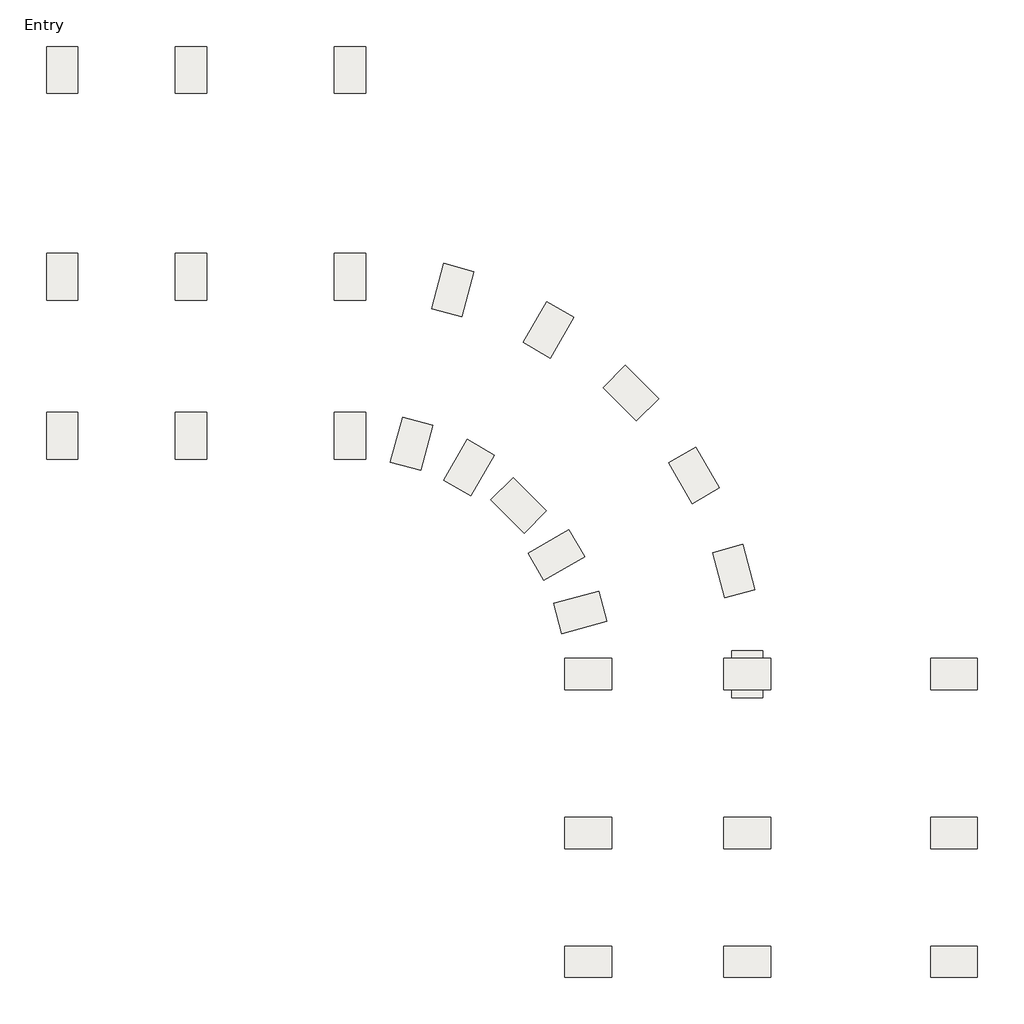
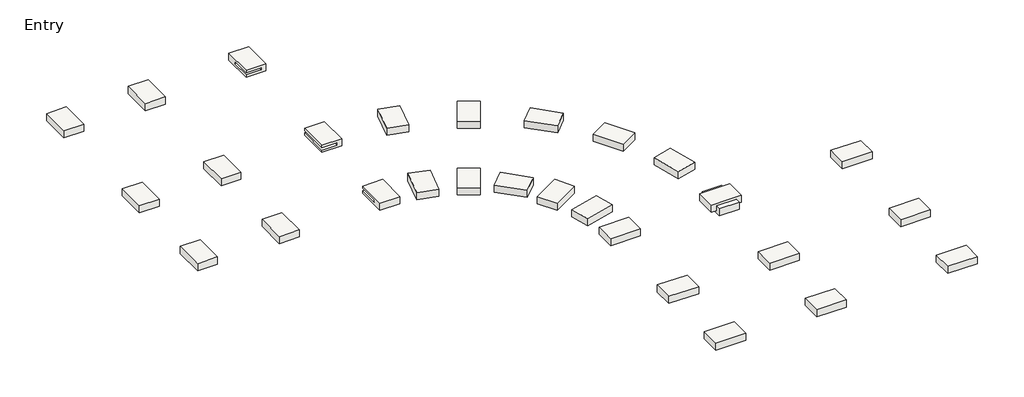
# One storey: 29 slabs.
"""IFC4 building model written with IfcOpenShell, lengths in millimetres."""

import ifcopenshell
import ifcopenshell.guid

model = None  # the IFC model being written
_history = None  # IfcOwnerHistory: only IFC2X3 demands one
_inside = {}  # id of a spatial element -> (the spatial element, [elements in it])
_under = {}  # id of a project, library or spatial element -> (it, [spatial elements below it])
_declared = {}  # id of a project -> (the project, [libraries it declares])
_typed = {}  # id of a type object -> (the type object, [elements of that type])
_made_of = {}  # id of a material, layer set ... -> (it, [elements and type objects made of it])


def new_model(schema):
    """Start an empty IFC model of exactly this schema.

    Asked for "IFC4X3", IfcOpenShell would pick the latest addendum, in which some entities
    have other attributes; the version numbers below select the first issue.
    IFC2X3 requires an IfcOwnerHistory on every rooted entity: one is made here for all.
    """
    global model, _history
    if schema == "IFC4X3":
        model = ifcopenshell.file(schema_version=(4, 3, 0, 0))
    else:
        model = ifcopenshell.file(schema=schema)
    _inside.clear()
    _under.clear()
    _declared.clear()
    _typed.clear()
    _made_of.clear()
    _history = None
    if model.schema == "IFC2X3":
        org = make("IfcOrganization", Name="unknown")
        user = make(
            "IfcPersonAndOrganization",
            ThePerson=make("IfcPerson", FamilyName="unknown"),
            TheOrganization=org,
        )
        app = make(
            "IfcApplication",
            ApplicationDeveloper=org,
            Version="unknown",
            ApplicationFullName="unknown",
            ApplicationIdentifier="unknown",
        )
        _history = make(
            "IfcOwnerHistory",
            OwningUser=user,
            OwningApplication=app,
            ChangeAction="ADDED",
            CreationDate=0,
        )
    return model


def make(cls, **values):
    """One entity of the class cls with the attributes given. An attribute that is None is left unset."""
    return model.create_entity(
        cls, **{name: value for name, value in values.items() if value is not None}
    )


def rooted(cls, **values):
    """An entity with a GlobalId (a new one), such as an element, a storey or a relation."""
    return make(cls, GlobalId=ifcopenshell.guid.new(), OwnerHistory=_history, **values)


def si_unit(unit_type, name, prefix=None):
    """IfcSIUnit, for example si_unit("LENGTHUNIT", "METRE", prefix="MILLI")."""
    return make("IfcSIUnit", UnitType=unit_type, Prefix=prefix, Name=name)


def assignment(units):
    """IfcUnitAssignment: the units of a project."""
    return None if units is None else make("IfcUnitAssignment", Units=units)


def point(xyz):
    """IfcCartesianPoint."""
    return None if xyz is None else make("IfcCartesianPoint", Coordinates=xyz)


def direction(xyz):
    """IfcDirection."""
    return None if xyz is None else make("IfcDirection", DirectionRatios=xyz)


def frame(location, z_axis=None, x_axis=None):
    """IfcAxis2Placement3D, a coordinate frame: its origin and axes. An axis left out is left unset."""
    return make(
        "IfcAxis2Placement3D",
        Location=point(location),
        Axis=direction(z_axis),
        RefDirection=direction(x_axis),
    )


def origin():
    """The frame at (0, 0, 0) with its axes left unset."""
    return frame((0.0, 0.0, 0.0))


def place(relative_to, where):
    """IfcLocalPlacement: puts the frame where relative to a parent placement (None: the world)."""
    return make(
        "IfcLocalPlacement", PlacementRelTo=relative_to, RelativePlacement=where
    )


def context(
    kind, dimensions, precision=None, world=None, true_north=None, identifier=None
):
    """IfcGeometricRepresentationContext, for example the 3D "Model" context."""
    return make(
        "IfcGeometricRepresentationContext",
        ContextIdentifier=identifier,
        ContextType=kind,
        CoordinateSpaceDimension=dimensions,
        Precision=precision,
        WorldCoordinateSystem=world,
        TrueNorth=true_north,
    )


def project(units=None, contexts=None):
    """IfcProject with its units and contexts."""
    return rooted(
        "IfcProject",
        Name="project",
        RepresentationContexts=contexts,
        UnitsInContext=assignment(units),
    )


def spatial(cls, under=None, at=None, **own):
    """A site, building, storey or space (cls), placed at a placement, below another one or the project."""
    s = rooted(cls, ObjectPlacement=at, **own)
    if under is not None:
        _under.setdefault(under.id(), (under, []))[1].append(s)
    return s


def polyline(points):
    """IfcPolyline through the points."""
    return make("IfcPolyline", Points=[point(p) for p in points])


def outline(outer, holes=None, kind="AREA"):
    """IfcArbitraryClosedProfileDef: a profile drawn as a closed curve; with holes, ...WithVoids."""
    if holes is None:
        return make("IfcArbitraryClosedProfileDef", ProfileType=kind, OuterCurve=outer)
    return make(
        "IfcArbitraryProfileDefWithVoids",
        ProfileType=kind,
        OuterCurve=outer,
        InnerCurves=holes,
    )


def extrude(swept, where, along, depth):
    """IfcExtrudedAreaSolid: the profile swept, set in the frame where, extruded along a direction by depth."""
    return make(
        "IfcExtrudedAreaSolid",
        SweptArea=swept,
        Position=where,
        ExtrudedDirection=direction(along),
        Depth=depth,
    )


def faces_of(points, faces, orient=None, outer=None):
    """IfcFace entities. A face is a list of loops; a loop is a list of indices into points, from 0.

    orient and outer hold one flag for each loop. By default every Orientation is true, the
    first loop of a face is its IfcFaceOuterBound and the others are IfcFaceBound.
    """
    made = []
    for i, loops in enumerate(faces):
        bounds = []
        for j, loop in enumerate(loops):
            is_outer = j == 0 if outer is None else outer[i][j]
            bounds.append(
                make(
                    "IfcFaceOuterBound" if is_outer else "IfcFaceBound",
                    Bound=make("IfcPolyLoop", Polygon=[points[k] for k in loop]),
                    Orientation=True if orient is None else orient[i][j],
                )
            )
        made.append(make("IfcFace", Bounds=bounds))
    return made


def faceted_brep(points, faces, orient=None, outer=None, voids=None):
    """IfcFacetedBrep: a solid bounded by flat faces; with voids (closed shells), ...WithVoids."""
    shared = [point(p) for p in points]
    hull = make("IfcClosedShell", CfsFaces=faces_of(shared, faces, orient, outer))
    if voids is None:
        return make("IfcFacetedBrep", Outer=hull)
    return make(
        "IfcFacetedBrepWithVoids",
        Outer=hull,
        Voids=[
            make(cls, CfsFaces=faces_of(shared, fs, o, b)) for cls, fs, o, b in voids
        ],
    )


def shape(context_of_items, identifier, shape_type, items):
    """IfcShapeRepresentation: the items that make up one representation, for example the "Body"."""
    return make(
        "IfcShapeRepresentation",
        ContextOfItems=context_of_items,
        RepresentationIdentifier=identifier,
        RepresentationType=shape_type,
        Items=items,
    )


def source(mapping_origin, context_of_items, identifier, shape_type, items):
    """IfcRepresentationMap: a shape defined once, which mapped items show again and again."""
    return make(
        "IfcRepresentationMap",
        MappingOrigin=mapping_origin,
        MappedRepresentation=shape(context_of_items, identifier, shape_type, items),
    )


def transform(
    local_origin,
    x_axis=None,
    y_axis=None,
    z_axis=None,
    scale=None,
    scale2=None,
    scale3=None,
    uniform=True,
):
    """IfcCartesianTransformationOperator3D, or its non-uniform kind. x_axis, y_axis, z_axis: its Axis1, 2, 3."""
    if uniform:
        return make(
            "IfcCartesianTransformationOperator3D",
            Axis1=direction(x_axis),
            Axis2=direction(y_axis),
            LocalOrigin=point(local_origin),
            Scale=scale,
            Axis3=direction(z_axis),
        )
    return make(
        "IfcCartesianTransformationOperator3DnonUniform",
        Axis1=direction(x_axis),
        Axis2=direction(y_axis),
        LocalOrigin=point(local_origin),
        Scale=scale,
        Axis3=direction(z_axis),
        Scale2=scale2,
        Scale3=scale3,
    )


def mapped(mapping_source, mapping_target):
    """IfcMappedItem: shows the shape of a source again, moved by a transform."""
    return make(
        "IfcMappedItem", MappingSource=mapping_source, MappingTarget=mapping_target
    )


def made_of(thing, what):
    """Note that an element or type object is made of a material, layer set ...; save() writes the relation."""
    if what is not None:
        _made_of.setdefault(what.id(), (what, []))[1].append(thing)
    return thing


def element(
    cls,
    number,
    at=None,
    inside=None,
    cuts=None,
    type_object=None,
    material=None,
    context=None,
    identifier="Body",
    shape_type=None,
    held_by="IfcProductDefinitionShape",
    body=None,
    shapes=None,
    **own,
):
    """One element of the class cls, such as IfcWall. Its Tag is "e" and its number.

    at: its placement. inside: the storey or other place that contains it. cuts: it is an
    opening in that element (IfcRelVoidsElement). A single representation is given by context,
    identifier, shape_type and body (its items); several are given by shapes. held_by: the class
    of the entity that holds the representations. save() writes the other relations.
    """
    e = rooted(cls, Tag="e%d" % number, ObjectPlacement=at, **own)
    if body is not None:
        shapes = [shape(context, identifier, shape_type, body)]
    if shapes is not None:
        e.Representation = make(held_by, Representations=shapes)
    if inside is not None:
        _inside.setdefault(inside.id(), (inside, []))[1].append(e)
    if cuts is not None:
        rooted(
            "IfcRelVoidsElement", RelatingBuildingElement=cuts, RelatedOpeningElement=e
        )
    if type_object is not None:
        _typed.setdefault(type_object.id(), (type_object, []))[1].append(e)
    return made_of(e, material)


def aggregate(whole, parts):
    """IfcRelAggregates: a whole, such as a stair, and the parts it consists of."""
    return rooted("IfcRelAggregates", RelatingObject=whole, RelatedObjects=parts)


def save(model, path):
    """Write the relations noted so far, then the file.

    IfcRelAggregates (storeys below a building ...), IfcRelContainedInSpatialStructure (elements
    in a storey), IfcRelDefinesByType, IfcRelAssociatesMaterial and IfcRelDeclares: one each for
    every whole, place, type object, material and project.
    """
    for whole, parts in _under.values():
        aggregate(whole, parts)
    for where, things in _inside.values():
        rooted(
            "IfcRelContainedInSpatialStructure",
            RelatedElements=things,
            RelatingStructure=where,
        )
    for kind, things in _typed.values():
        rooted("IfcRelDefinesByType", RelatedObjects=things, RelatingType=kind)
    for what, things in _made_of.values():
        rooted("IfcRelAssociatesMaterial", RelatedObjects=things, RelatingMaterial=what)
    for by, libraries in _declared.values():
        rooted("IfcRelDeclares", RelatingContext=by, RelatedDefinitions=libraries)
    model.write(path)


def m_footing_rectangular_1800_x_1200_x_450mm_16ba7ea5(model_context):
    return source(origin(), model_context, "Body", "SweptSolid", [
        extrude(outline(polyline([(600.0, 900.0), (600.0, -900.0), (-600.0, -900.0), (-600.0, 900.0), (600.0, 900.0)])), frame((0.0, 0.0, -450.0), z_axis=(0.0, 0.0, 1.0), x_axis=(1.0, 0.0, 0.0)), (0.0, 0.0, 1.0), 450.0),
    ])


def m_footing_rectangular_1800_x_1200_x_450mm_a17f5610(model_context):
    return source(origin(), model_context, "Body", "SweptSolid", [
        extrude(outline(polyline([(600.0, -900.0), (-600.0, -900.0), (-600.0, 900.0), (600.0, 900.0), (600.0, -900.0)])), frame((0.0, 0.0, -450.0), z_axis=(0.0, 0.0, 1.0), x_axis=(1.0, 0.0, 0.0)), (0.0, 0.0, 1.0), 450.0),
    ])


model = new_model("IFC4")

# Units and contexts
model_context = context("Model", 3, world=origin())
ifc_project = project(units=[si_unit("LENGTHUNIT", "METRE", prefix="MILLI")], contexts=[model_context])

# Site, building, storey
site = spatial("IfcSite", under=ifc_project)
building = spatial("IfcBuilding", under=site)
storey = spatial("IfcBuildingStorey", under=building, Name="Entry", Elevation=0.0)

# Slabs
placement = place(None, origin())
element("IfcSlab", 1, ObjectType="M_Footing-Rectangular : 1800 x 1200 x 450mm", at=placement, inside=storey, context=model_context, shape_type="Brep", body=[
    faceted_brep([(-11108.9035319, 3362.1636035, -1677.0), (-9908.9035319, 3362.1636035, -1677.0), (-9908.9035319, 5162.1636035, -1677.0), (-11108.9035319, 5162.1636035, -1677.0), (-11108.9035319, 3362.1636035, -2127.0), (-11108.9035319, 5162.1636035, -2127.0), (-9908.9035319, 5162.1636035, -2127.0), (-9908.9035319, 3362.1636035, -2127.0), (-11108.9035319, 3362.1636035, -1829.0), (-10208.9035319, 3362.1636035, -1829.0), (-10208.9035319, 3362.1636035, -1979.0), (-11108.9035319, 3362.1636035, -1979.0), (-11108.9035319, 4562.1636035, -1979.0), (-11108.9035319, 4562.1636035, -1829.0), (-10208.9035319, 4562.1636035, -1979.0), (-10208.9035319, 4562.1636035, -1829.0)], [[[0, 1, 2, 3]], [[4, 5, 6, 7]], [[1, 0, 8, 9, 10, 11, 4, 7]], [[2, 1, 7, 6]], [[3, 2, 6, 5]], [[0, 3, 5, 4, 11, 12, 13, 8]], [[14, 12, 11, 10]], [[15, 9, 8, 13]], [[15, 14, 10, 9]], [[14, 15, 13, 12]]]),
])
element("IfcSlab", 2, ObjectType="M_Footing-Rectangular : 1800 x 1200 x 450mm", at=placement, inside=storey, context=model_context, shape_type="Brep", body=[
    faceted_brep([(5331.0964681, -18002.8363965, -1829.0), (4131.0964681, -18002.8363965, -1829.0), (4131.0964681, -18302.8363965, -1829.0), (4131.0964681, -19502.8363965, -1829.0), (4131.0964681, -19802.8363965, -1829.0), (5331.0964681, -19802.8363965, -1829.0), (5331.0964681, -19502.8363965, -1829.0), (5331.0964681, -18302.8363965, -1829.0), (5331.0964681, -18002.8363965, -2279.0), (5331.0964681, -19802.8363965, -2279.0), (4131.0964681, -19802.8363965, -2279.0), (4131.0964681, -18002.8363965, -2279.0)], [[[0, 1, 2, 3, 4, 5, 6, 7]], [[8, 9, 10, 11]], [[1, 0, 8, 11]], [[4, 3, 2, 1, 11, 10]], [[5, 4, 10, 9]], [[0, 7, 6, 5, 9, 8]]]),
])
element("IfcSlab", 3, ObjectType="M_Footing-Rectangular : 1800 x 1200 x 450mm", at=placement, inside=storey, context=model_context, shape_type="SweptSolid", body=[
    extrude(outline(polyline([(-1677.0, -9908.9035319), (-1677.0, -11108.9035319), (-1829.0, -11108.9035319), (-1829.0, -10208.9035319), (-1979.0, -10208.9035319), (-1979.0, -11108.9035319), (-2127.0, -11108.9035319), (-2127.0, -9908.9035319), (-1677.0, -9908.9035319)])), frame((0.0, -4562.8363965, 0.0), z_axis=(0.0, 1.0, 0.0), x_axis=(0.0, 0.0, 1.0)), (0.0, 0.0, 1.0), 1800.0),
])
element("IfcSlab", 4, ObjectType="M_Footing-Rectangular : 1800 x 1200 x 450mm", at=placement, inside=storey, context=model_context, shape_type="Brep", body=[
    faceted_brep([(-9908.9035319, -8858.8363965, -1677.0), (-11108.9035319, -8858.8363965, -1677.0), (-11108.9035319, -10658.8363965, -1677.0), (-9908.9035319, -10658.8363965, -1677.0), (-9908.9035319, -8858.8363965, -2127.0), (-9908.9035319, -10658.8363965, -2127.0), (-11108.9035319, -10658.8363965, -2127.0), (-11108.9035319, -8858.8363965, -2127.0), (-11108.9035319, -8858.8363965, -1979.0), (-10208.9035319, -8858.8363965, -1979.0), (-10208.9035319, -8858.8363965, -1829.0), (-11108.9035319, -8858.8363965, -1829.0), (-11108.9035319, -10058.8363965, -1829.0), (-11108.9035319, -10058.8363965, -1979.0), (-10208.9035319, -10058.8363965, -1979.0), (-10208.9035319, -10058.8363965, -1829.0)], [[[0, 1, 2, 3]], [[4, 5, 6, 7]], [[1, 0, 4, 7, 8, 9, 10, 11]], [[2, 1, 11, 12, 13, 8, 7, 6]], [[3, 2, 6, 5]], [[0, 3, 5, 4]], [[13, 14, 9, 8]], [[10, 15, 12, 11]], [[14, 15, 10, 9]], [[15, 14, 13, 12]]]),
])
element("IfcSlab", 5, ObjectType="M_Footing-Rectangular : 1800 x 1200 x 450mm", at=placement, inside=storey, context=model_context, shape_type="SweptSolid", body=[
    extrude(outline(polyline([(11756.0964681, -19502.8363965), (11756.0964681, -18302.8363965), (13556.0964681, -18302.8363965), (13556.0964681, -19502.8363965), (11756.0964681, -19502.8363965)])), frame((0.0, 0.0, -2127.0), z_axis=(0.0, 0.0, 1.0), x_axis=(1.0, 0.0, 0.0)), (0.0, 0.0, 1.0), 450.0),
])
element("IfcSlab", 6, ObjectType="M_Footing-Rectangular : 1800 x 1200 x 450mm", at=placement, inside=storey, context=model_context, shape_type="SweptSolid", body=[
    extrude(outline(polyline([(-1677.0, 5631.0964681), (-1677.0, 3831.0964681), (-2127.0, 3831.0964681), (-2127.0, 4131.0964681), (-1829.0, 4131.0964681), (-1829.0, 5331.0964681), (-2127.0, 5331.0964681), (-2127.0, 5631.0964681), (-1677.0, 5631.0964681)])), frame((0.0, -19502.8363965, 0.0), z_axis=(0.0, 1.0, 0.0), x_axis=(0.0, 0.0, 1.0)), (0.0, 0.0, 1.0), 1200.0),
])
element("IfcSlab", 7, ObjectType="M_Footing-Rectangular : 1800 x 1200 x 450mm", at=placement, inside=storey, context=model_context, shape_type="SweptSolid", body=[
    extrude(outline(polyline([(-464.9035319, -18302.8363965), (-464.9035319, -19502.8363965), (-2264.9035319, -19502.8363965), (-2264.9035319, -18302.8363965), (-464.9035319, -18302.8363965)])), frame((0.0, 0.0, -2127.0), z_axis=(0.0, 0.0, 1.0), x_axis=(1.0, 0.0, 0.0)), (0.0, 0.0, 1.0), 450.0),
])
m_footing_rectangular_1800_x_1200_x_450mm_shape = m_footing_rectangular_1800_x_1200_x_450mm_16ba7ea5(model_context)
element("IfcSlab", 8, ObjectType="M_Footing-Rectangular : 1800 x 1200 x 450mm", at=placement, inside=storey, context=model_context, shape_type="MappedRepresentation", body=[
    mapped(m_footing_rectangular_1800_x_1200_x_450mm_shape, transform((4211.8060608, -14958.4341491, -1677.0), x_axis=(0.9659258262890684, 0.25881904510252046, 0.0), y_axis=(-0.25881904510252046, 0.9659258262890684, 0.0), z_axis=(0.0, 0.0, 1.0))),
])
element("IfcSlab", 9, ObjectType="M_Footing-Rectangular : 1800 x 1200 x 450mm", at=placement, inside=storey, context=model_context, shape_type="MappedRepresentation", body=[
    mapped(m_footing_rectangular_1800_x_1200_x_450mm_shape, transform((2689.3236218, -11282.8363965, -1677.0), x_axis=(0.8660254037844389, 0.4999999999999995, 0.0), y_axis=(-0.4999999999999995, 0.8660254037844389, 0.0), z_axis=(0.0, 0.0, 1.0))),
])
element("IfcSlab", 10, ObjectType="M_Footing-Rectangular : 1800 x 1200 x 450mm", at=placement, inside=storey, context=model_context, shape_type="MappedRepresentation", body=[
    mapped(m_footing_rectangular_1800_x_1200_x_450mm_shape, transform((267.4038134, -8126.5290512, -1677.0), x_axis=(0.7071067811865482, 0.7071067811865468, 0.0), y_axis=(-0.7071067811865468, 0.7071067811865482, 0.0), z_axis=(0.0, 0.0, 1.0))),
])
element("IfcSlab", 11, ObjectType="M_Footing-Rectangular : 1800 x 1200 x 450mm", at=placement, inside=storey, context=model_context, shape_type="MappedRepresentation", body=[
    mapped(m_footing_rectangular_1800_x_1200_x_450mm_shape, transform((-2888.9035319, -5704.6092428, -1677.0), x_axis=(0.8660254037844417, -0.49999999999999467, 0.0), y_axis=(0.49999999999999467, 0.8660254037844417, 0.0), z_axis=(0.0, 0.0, 1.0))),
])
element("IfcSlab", 12, ObjectType="M_Footing-Rectangular : 1800 x 1200 x 450mm", at=placement, inside=storey, context=model_context, shape_type="MappedRepresentation", body=[
    mapped(m_footing_rectangular_1800_x_1200_x_450mm_shape, transform((-6564.5012845, -4182.1268039, -1677.0), x_axis=(0.9659258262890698, -0.25881904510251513, 0.0), y_axis=(0.25881904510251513, 0.9659258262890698, 0.0), z_axis=(0.0, 0.0, 1.0))),
])
element("IfcSlab", 13, ObjectType="M_Footing-Rectangular : 1800 x 1200 x 450mm", at=placement, inside=storey, context=model_context, shape_type="MappedRepresentation", body=[
    mapped(m_footing_rectangular_1800_x_1200_x_450mm_shape, transform((-1676.4777763, -16536.1950481, -1677.0), x_axis=(-0.25881904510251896, 0.9659258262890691, 0.0), y_axis=(-0.9659258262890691, -0.25881904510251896, 0.0), z_axis=(0.0, 0.0, 1.0))),
])
element("IfcSlab", 14, ObjectType="M_Footing-Rectangular : 1800 x 1200 x 450mm", at=placement, inside=storey, context=model_context, shape_type="MappedRepresentation", body=[
    mapped(m_footing_rectangular_1800_x_1200_x_450mm_shape, transform((-2589.9672396, -14330.8363965, -1677.0), x_axis=(-0.4999999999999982, 0.8660254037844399, 0.0), y_axis=(-0.8660254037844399, -0.4999999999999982, 0.0), z_axis=(0.0, 0.0, 1.0))),
])
element("IfcSlab", 15, ObjectType="M_Footing-Rectangular : 1800 x 1200 x 450mm", at=placement, inside=storey, context=model_context, shape_type="MappedRepresentation", body=[
    mapped(m_footing_rectangular_1800_x_1200_x_450mm_shape, transform((-4043.1191247, -12437.0519893, -1677.0), x_axis=(0.7071067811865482, 0.7071067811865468, 0.0), y_axis=(-0.7071067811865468, 0.7071067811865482, 0.0), z_axis=(0.0, 0.0, 1.0))),
])
element("IfcSlab", 16, ObjectType="M_Footing-Rectangular : 1800 x 1200 x 450mm", at=placement, inside=storey, context=model_context, shape_type="MappedRepresentation", body=[
    mapped(m_footing_rectangular_1800_x_1200_x_450mm_shape, transform((-5936.9035319, -10983.9001043, -1677.0), x_axis=(0.8660254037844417, -0.49999999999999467, 0.0), y_axis=(0.49999999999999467, 0.8660254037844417, 0.0), z_axis=(0.0, 0.0, 1.0))),
])
element("IfcSlab", 17, ObjectType="M_Footing-Rectangular : 1800 x 1200 x 450mm", at=placement, inside=storey, context=model_context, shape_type="MappedRepresentation", body=[
    mapped(m_footing_rectangular_1800_x_1200_x_450mm_shape, transform((-8142.2621834, -10070.4106409, -1677.0), x_axis=(0.9659258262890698, -0.25881904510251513, 0.0), y_axis=(0.25881904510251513, 0.9659258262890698, 0.0), z_axis=(0.0, 0.0, 1.0))),
])
element("IfcSlab", 18, ObjectType="M_Footing-Rectangular : 1800 x 1200 x 450mm", at=placement, inside=storey, context=model_context, shape_type="MappedRepresentation", body=[
    mapped(m_footing_rectangular_1800_x_1200_x_450mm_shape, transform((-16604.9035319, 4262.1636035, -1677.0), x_axis=(-1.0, 0.0, 0.0), y_axis=(0.0, -1.0, 0.0), z_axis=(0.0, 0.0, 1.0))),
])
element("IfcSlab", 19, ObjectType="M_Footing-Rectangular : 1800 x 1200 x 450mm", at=placement, inside=storey, context=model_context, shape_type="MappedRepresentation", body=[
    mapped(m_footing_rectangular_1800_x_1200_x_450mm_shape, transform((-21544.300634, 4262.1636035, -1677.0), x_axis=(-1.0, 0.0, 0.0), y_axis=(0.0, -1.0, 0.0), z_axis=(0.0, 0.0, 1.0))),
])
element("IfcSlab", 20, ObjectType="M_Footing-Rectangular : 1800 x 1200 x 450mm", at=placement, inside=storey, context=model_context, shape_type="MappedRepresentation", body=[
    mapped(m_footing_rectangular_1800_x_1200_x_450mm_shape, transform((-16604.9035319, -3662.8363965, -1677.0), x_axis=(-1.0, 0.0, 0.0), y_axis=(0.0, -1.0, 0.0), z_axis=(0.0, 0.0, 1.0))),
])
element("IfcSlab", 21, ObjectType="M_Footing-Rectangular : 1800 x 1200 x 450mm", at=placement, inside=storey, context=model_context, shape_type="MappedRepresentation", body=[
    mapped(m_footing_rectangular_1800_x_1200_x_450mm_shape, transform((-21544.300634, -3662.8363965, -1677.0), x_axis=(-1.0, 0.0, 0.0), y_axis=(0.0, -1.0, 0.0), z_axis=(0.0, 0.0, 1.0))),
])
element("IfcSlab", 22, ObjectType="M_Footing-Rectangular : 1800 x 1200 x 450mm", at=placement, inside=storey, context=model_context, shape_type="MappedRepresentation", body=[
    mapped(m_footing_rectangular_1800_x_1200_x_450mm_shape, transform((-16604.9035319, -9758.8363965, -1677.0), x_axis=(-1.0, 0.0, 0.0), y_axis=(0.0, -1.0, 0.0), z_axis=(0.0, 0.0, 1.0))),
])
element("IfcSlab", 23, ObjectType="M_Footing-Rectangular : 1800 x 1200 x 450mm", at=placement, inside=storey, context=model_context, shape_type="MappedRepresentation", body=[
    mapped(m_footing_rectangular_1800_x_1200_x_450mm_shape, transform((-21544.300634, -9758.8363965, -1677.0), x_axis=(-1.0, 0.0, 0.0), y_axis=(0.0, -1.0, 0.0), z_axis=(0.0, 0.0, 1.0))),
])
m_footing_rectangular_1800_x_1200_x_450mm_2_shape = m_footing_rectangular_1800_x_1200_x_450mm_a17f5610(model_context)
element("IfcSlab", 24, ObjectType="M_Footing-Rectangular : 1800 x 1200 x 450mm", at=placement, inside=storey, context=model_context, shape_type="MappedRepresentation", body=[
    mapped(m_footing_rectangular_1800_x_1200_x_450mm_2_shape, transform((12656.0964681, -24998.8363965, -1677.0), x_axis=(0.0, -1.0, 0.0), y_axis=(1.0, 0.0, 0.0), z_axis=(0.0, 0.0, 1.0))),
])
element("IfcSlab", 25, ObjectType="M_Footing-Rectangular : 1800 x 1200 x 450mm", at=placement, inside=storey, context=model_context, shape_type="MappedRepresentation", body=[
    mapped(m_footing_rectangular_1800_x_1200_x_450mm_2_shape, transform((12656.0964681, -29938.2334986, -1677.0), x_axis=(0.0, -1.0, 0.0), y_axis=(1.0, 0.0, 0.0), z_axis=(0.0, 0.0, 1.0))),
])
element("IfcSlab", 26, ObjectType="M_Footing-Rectangular : 1800 x 1200 x 450mm", at=placement, inside=storey, context=model_context, shape_type="MappedRepresentation", body=[
    mapped(m_footing_rectangular_1800_x_1200_x_450mm_2_shape, transform((4731.0964681, -24998.8363965, -1677.0), x_axis=(0.0, -1.0, 0.0), y_axis=(1.0, 0.0, 0.0), z_axis=(0.0, 0.0, 1.0))),
])
element("IfcSlab", 27, ObjectType="M_Footing-Rectangular : 1800 x 1200 x 450mm", at=placement, inside=storey, context=model_context, shape_type="MappedRepresentation", body=[
    mapped(m_footing_rectangular_1800_x_1200_x_450mm_2_shape, transform((4731.0964681, -29938.2334986, -1677.0), x_axis=(0.0, -1.0, 0.0), y_axis=(1.0, 0.0, 0.0), z_axis=(0.0, 0.0, 1.0))),
])
element("IfcSlab", 28, ObjectType="M_Footing-Rectangular : 1800 x 1200 x 450mm", at=placement, inside=storey, context=model_context, shape_type="MappedRepresentation", body=[
    mapped(m_footing_rectangular_1800_x_1200_x_450mm_2_shape, transform((-1364.9035319, -24998.8363965, -1677.0), x_axis=(0.0, -1.0, 0.0), y_axis=(1.0, 0.0, 0.0), z_axis=(0.0, 0.0, 1.0))),
])
element("IfcSlab", 29, ObjectType="M_Footing-Rectangular : 1800 x 1200 x 450mm", at=placement, inside=storey, context=model_context, shape_type="MappedRepresentation", body=[
    mapped(m_footing_rectangular_1800_x_1200_x_450mm_2_shape, transform((-1364.9035319, -29938.2334986, -1677.0), x_axis=(0.0, -1.0, 0.0), y_axis=(1.0, 0.0, 0.0), z_axis=(0.0, 0.0, 1.0))),
])

save(model, "model.ifc")
